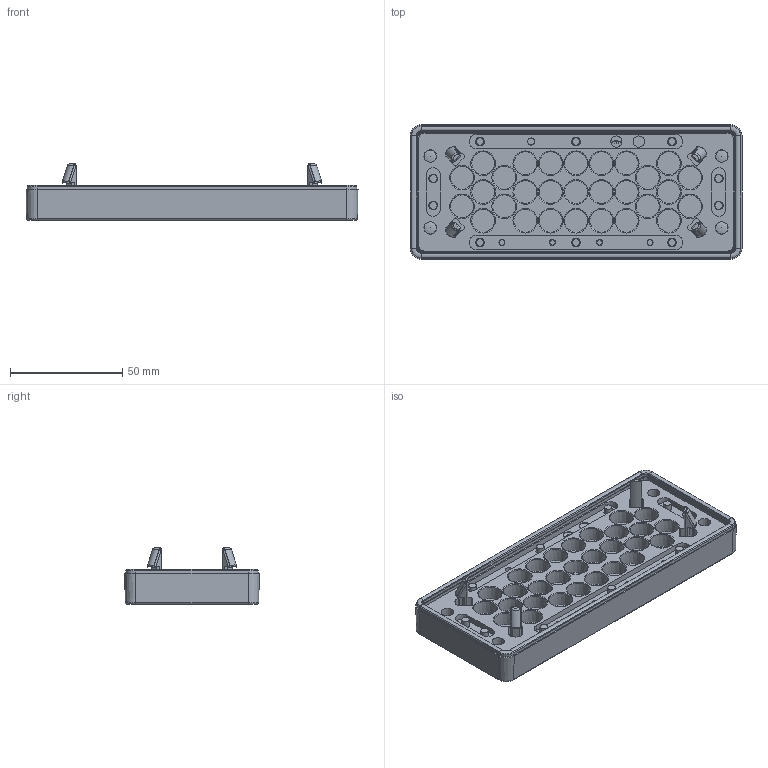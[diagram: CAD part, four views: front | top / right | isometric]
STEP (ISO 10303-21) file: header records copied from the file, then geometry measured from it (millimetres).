
FILE_DESCRIPTION(/* description */ (''),/* implementation_level */ '2;1');
FILE_NAME(/* name */ 'C:\SapWorkDir\Inventor\MP1\ConvertTempPath\87_16_121493_00_A_220620_KDP-X 24-29 ZSB - Blech 1,5-2,0.stp',/* time_stamp */ '2022-06-21T10:26:45+02:00',/* author */ ('BAUER'),/* organization */ (''),/* preprocessor_version */ 'ST-DEVELOPER v16.13',/* originating_system */ 'Autodesk Inventor 2018',/* authorisation */ '');
FILE_SCHEMA (('AUTOMOTIVE_DESIGN { 1 0 10303 214 3 1 1 }'));
Products named in the file (5): 121493; 121389; 105859_MPS_3F1; 105857_MPS_3F1; 104104_MPS_3F1
Assembly tree (4 placements, depth 2):
  121493
    121389
    105859_MPS_3F1
    105857_MPS_3F1
    104104_MPS_3F1
Bounding box: 148 x 60 x 25 mm (x, y, z)
Volume: 74648.6 mm3; surface area: 73671.7 mm2
Topology: 4 solids, 4 shells, 3655 faces, 9168 edges, 5390 vertices
Faces by surface type: plane 1251, bspline 831, cylinder 614, cone 406, torus 358, sphere 195
Full cylindrical faces by diameter (mm): 2.5 x4, 2.6 x4, 3 x1, 3.1 x1, 3.6 x10, 5 x2, 5.5 x8, 6.5 x4, 7.5 x4
Entity records: 122776 total; most frequent: CARTESIAN_POINT 38792, ORIENTED_EDGE 17290, DIRECTION 17235, EDGE_CURVE 8645, AXIS2_PLACEMENT_3D 6400, VERTEX_POINT 5382, LINE 4435, VECTOR 4435
